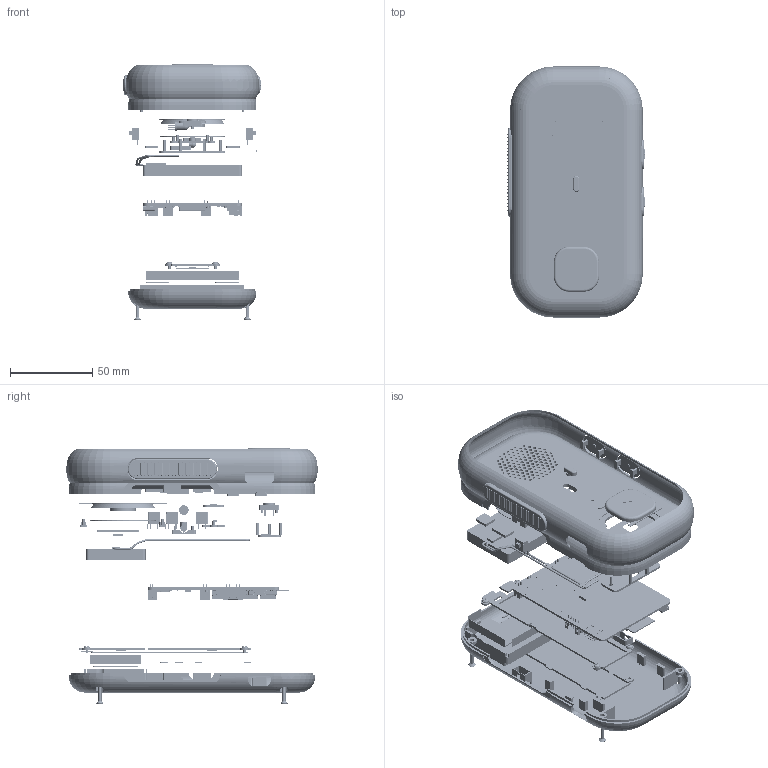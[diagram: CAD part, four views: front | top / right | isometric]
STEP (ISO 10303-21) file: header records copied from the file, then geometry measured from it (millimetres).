
FILE_DESCRIPTION(('Open CASCADE Model'),'2;1');
FILE_NAME('Concept_27_R2_Exploded_Identification_Not_Assembly_Motion', '2026-09-10T03:00:37',('Author'),('Open CASCADE'), 'Open CASCADE STEP processor 7.9','build123d','Unknown');
FILE_SCHEMA(('AUTOMOTIVE_DESIGN { 1 0 10303 214 1 1 1 1 }'));
Length unit declared in the file: millimetre
Products named in the file (454): Concept_27_R2_Exploded_Identification_Not_Assembly_Motion; C27_R2_01_Front_Shell_Chalk_Centered_Mic; C27_R2_02_Back_Shell_Chalk; C27_R2_03_Front_Action_Rigid_Carrier; C27_R2_04_Status_Lens; C27_R2_05_Front_Switch_Clamp; C27_R2_06_PTT_Rigid_Carrier; C27_R2_07_Volume_Up_Rigid_Carrier; C27_R2_08_Volume_Down_Rigid_Carrier; C27_R2_09_Warm_Grey_Elastomer_Rim; C27_R2_10_Front_Action_Pewter_Cap; C27_R2_11_Front_Action_Bond_Film; C27_R2_12_Volume_Up_Pewter_Cap; C27_R2_13_Volume_Up_Bond_Film; C27_R2_14_Volume_Down_Pewter_Cap; C27_R2_15_Volume_Down_Bond_Film; C27_R2_16_Orange_Ribbed_PTT_Grip; C27_R2_17_PTT_Bond_Film; C27_R2_PCB_Front_Seat_1; C27_R2_PCB_Rear_Preload_1; C27_R2_PCB_Front_Seat_2; C27_R2_PCB_Rear_Preload_2; C27_R2_PCB_Front_Seat_3; C27_R2_PCB_Rear_Preload_3; C27_R2_PCB_Front_Seat_4; C27_R2_PCB_Rear_Preload_4; C27_R2_Battery_Front_Pad_-1_1; C27_R2_Battery_Front_Pad_-1_2; C27_R2_Battery_Rear_Pad_-1; C27_R2_Battery_Side_Liner_-1; C27_R2_Battery_Front_Pad_1; C27_R2_Battery_Rear_Pad_1; C27_R2_Battery_Side_Liner_1; C27_R2_Battery_Lower_Liner; C27_R2_Battery_Upper_Liner_-1; C27_R2_Battery_Upper_Liner_1; C27_R2_Speaker_Front_Gasket; C27_R2_Speaker_Frame_Gasket; C27_R2_Speaker_Acoustic_Mesh; C27_R2_Speaker_Ear_Keeper_1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
Assembly tree (453 placements, depth 3):
  Concept_27_R2_Exploded_Identification_Not_Assembly_Motion
    C27_R2_01_Front_Shell_Chalk_Centered_Mic
    C27_R2_02_Back_Shell_Chalk
    C27_R2_03_Front_Action_Rigid_Carrier
    C27_R2_04_Status_Lens
    C27_R2_05_Front_Switch_Clamp
    C27_R2_06_PTT_Rigid_Carrier
    C27_R2_07_Volume_Up_Rigid_Carrier
    C27_R2_08_Volume_Down_Rigid_Carrier
    C27_R2_09_Warm_Grey_Elastomer_Rim
    C27_R2_10_Front_Action_Pewter_Cap
    C27_R2_11_Front_Action_Bond_Film
    C27_R2_12_Volume_Up_Pewter_Cap
    C27_R2_13_Volume_Up_Bond_Film
    C27_R2_14_Volume_Down_Pewter_Cap
    C27_R2_15_Volume_Down_Bond_Film
    C27_R2_16_Orange_Ribbed_PTT_Grip
    C27_R2_17_PTT_Bond_Film
    C27_R2_PCB_Front_Seat_1
    C27_R2_PCB_Rear_Preload_1
    C27_R2_PCB_Front_Seat_2
    C27_R2_PCB_Rear_Preload_2
    C27_R2_PCB_Front_Seat_3
    C27_R2_PCB_Rear_Preload_3
    C27_R2_PCB_Front_Seat_4
    C27_R2_PCB_Rear_Preload_4
    C27_R2_Battery_Front_Pad_-1_1
    C27_R2_Battery_Front_Pad_-1_2
    C27_R2_Battery_Rear_Pad_-1
    C27_R2_Battery_Side_Liner_-1
    C27_R2_Battery_Front_Pad_1
    C27_R2_Battery_Rear_Pad_1
    C27_R2_Battery_Side_Liner_1
    C27_R2_Battery_Lower_Liner
    C27_R2_Battery_Upper_Liner_-1
    C27_R2_Battery_Upper_Liner_1
    C27_R2_Speaker_Front_Gasket
    C27_R2_Speaker_Frame_Gasket
    C27_R2_Speaker_Acoustic_Mesh
    C27_R2_Speaker_Ear_Keeper_1
    C27_R2_Speaker_Ear_Preload_1
    C27_R2_Speaker_Ear_Keeper_2
    C27_R2_Speaker_Ear_Preload_2
    C27_R2_Microphone_Removable_Keeper
    C27_R2_Microphone_Rear_Preload
    C27_R2_Mic_Front_Seat_1
    C27_R2_Mic_Front_Seat_2
    C27_R2_Mic_Front_Seat_3
    C27_R2_Mic_Front_Seat_4
    C27_R2_Microphone_Acoustic_Seal
    C27_R2_Microphone_Acoustic_Membrane
    C27_R2_LED_Horizontal_Removable_Keeper
    C27_R2_LED_Saddle_Pad_1
    C27_R2_LED_Saddle_Pad_2
    C27_R2_Internal_Right_Angle_Light_Coupler
    C27_R2_Optical_Coupling_Film
    C27_R2_LTE_Lower_Service_Frame
    C27_R2_LTE_Upper_Service_Frame
    C27_R2_LTE_Soft_Stop_-1_1
    C27_R2_LTE_Soft_Stop_-1_2
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Bounding box: 83.35 x 152.7 x 155.2 mm (x, y, z)
Volume: 118532.6 mm3; surface area: 162776 mm2
Topology: 443 solids, 448 shells, 24969 faces, 53528 edges, 29746 vertices
Faces by surface type: plane 19752, cylinder 2810, bspline 2074, torus 248, cone 52, sphere 29, revolution 4
Full cylindrical faces by diameter (mm): 0.3 x59, 0.375 x1, 0.5 x1, 0.75 x4, 0.813 x5, 0.9 x8, 1.2 x14, 1.4 x32, 1.5 x5, 1.567 x14, 1.7 x26, 1.8 x49, 2.013 x4, 2.1 x4, 2.2 x43, 2.3 x12, 2.6 x6, 2.8 x4, 2.9 x4, 3 x3, 4.2 x6, 5 x1, 5.1 x4, 5.3 x1, 5.4 x5, 5.5 x1, 38 x2, 39.6 x3
Entity records: 1430797 total; most frequent: CARTESIAN_POINT 336667, DIRECTION 194599, LINE 133243, VECTOR 133243, ORIENTED_EDGE 106966, PCURVE 106966, DEFINITIONAL_REPRESENTATION 106966, EDGE_CURVE 53483
